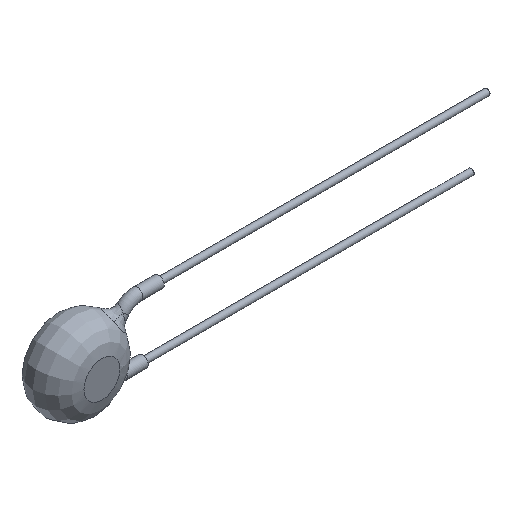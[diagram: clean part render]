
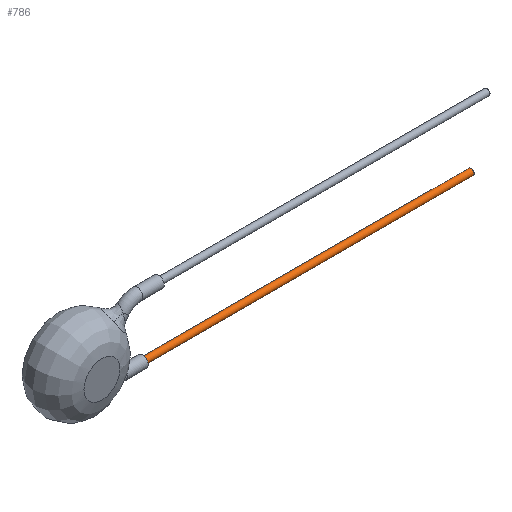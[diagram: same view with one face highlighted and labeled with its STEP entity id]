
A CAD part, isometric view. The second image highlights one B-rep face of the part: STEP entity #786.
In plain terms, the highlighted cylindrical face has radius 0.3 mm (diameter 0.6 mm), a full revolution.
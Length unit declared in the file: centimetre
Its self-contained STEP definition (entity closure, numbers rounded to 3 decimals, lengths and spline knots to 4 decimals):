
#657=CARTESIAN_POINT('',(0.725,0.125,-0.345));
#658=VERTEX_POINT('',#657);
#659=CARTESIAN_POINT('',(0.725,0.125,-0.375));
#660=DIRECTION('',(1.0,0.0,0.0));
#661=DIRECTION('',(0.0,-1.0,0.0));
#662=AXIS2_PLACEMENT_3D('',#659,#660,#661);
#663=CIRCLE('',#662,0.03);
#664=EDGE_CURVE('',#658,#658,#663,.T.);
#767=CARTESIAN_POINT('',(3.925,0.125,-0.375));
#768=DIRECTION('',(-1.0,0.,0.));
#769=DIRECTION('',(0.0,-1.0,0.0));
#770=AXIS2_PLACEMENT_3D('',#767,#768,#769);
#771=CYLINDRICAL_SURFACE('',#770,0.03);
#772=ORIENTED_EDGE('',*,*,#664,.T.);
#773=EDGE_LOOP('',(#772));
#774=FACE_OUTER_BOUND('',#773,.T.);
#775=CARTESIAN_POINT('',(3.925,0.155,-0.375));
#776=VERTEX_POINT('',#775);
#777=CARTESIAN_POINT('',(3.925,0.125,-0.375));
#778=DIRECTION('',(1.0,0.0,0.0));
#779=DIRECTION('',(0.0,-1.0,0.0));
#780=AXIS2_PLACEMENT_3D('',#777,#778,#779);
#781=CIRCLE('',#780,0.03);
#782=EDGE_CURVE('',#776,#776,#781,.T.);
#783=ORIENTED_EDGE('',*,*,#782,.F.);
#784=EDGE_LOOP('',(#783));
#785=FACE_BOUND('',#784,.T.);
#786=ADVANCED_FACE('',(#774,#785),#771,.T.);
